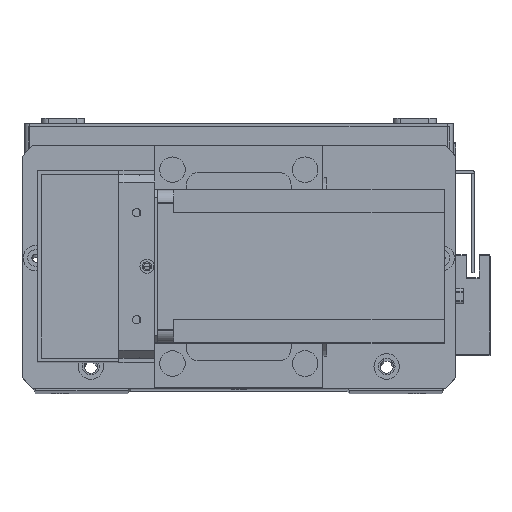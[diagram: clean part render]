
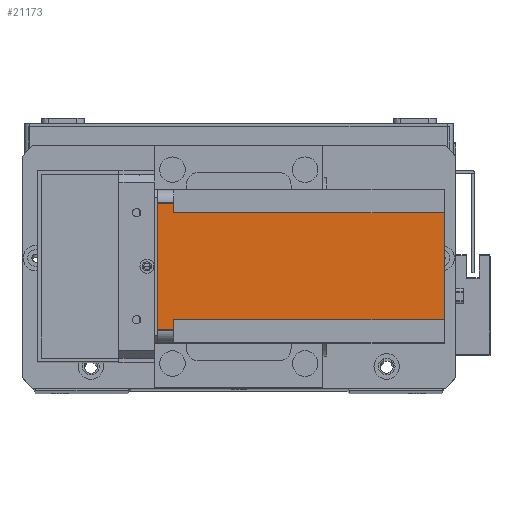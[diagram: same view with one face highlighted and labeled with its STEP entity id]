
A CAD part, top view. The second image highlights one B-rep face of the part: STEP entity #21173.
In plain terms, the highlighted planar face has unit normal (0, 0, 1) as drawn and (-1, 0, 0) by its records, which use the part's own axes.
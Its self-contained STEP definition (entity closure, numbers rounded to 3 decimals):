
#72 = LINE ( 'NONE', #29874, #24932 ) ;
#92 = CARTESIAN_POINT ( 'NONE',  ( 0., 51., -112.5 ) ) ;
#443 = ORIENTED_EDGE ( 'NONE', *, *, #10992, .T. ) ;
#1039 = DIRECTION ( 'NONE',  ( 0., -1., 0. ) ) ;
#1061 = FACE_OUTER_BOUND ( 'NONE', #11012, .T. ) ;
#1463 = CARTESIAN_POINT ( 'NONE',  ( 0., 0., -6.5 ) ) ;
#1934 = CARTESIAN_POINT ( 'NONE',  ( 0., 55., -6.5 ) ) ;
#2232 = ORIENTED_EDGE ( 'NONE', *, *, #4932, .T. ) ;
#2370 = CARTESIAN_POINT ( 'NONE',  ( 0., 5., -112.5 ) ) ;
#3046 = LINE ( 'NONE', #30654, #14325 ) ;
#3727 = DIRECTION ( 'NONE',  ( 0., 0., -1. ) ) ;
#4104 = DIRECTION ( 'NONE',  ( 0., 0., -1. ) ) ;
#4932 = EDGE_CURVE ( 'NONE', #8837, #8060, #9260, .T. ) ;
#5258 = EDGE_CURVE ( 'NONE', #18694, #5936, #17892, .T. ) ;
#5936 = VERTEX_POINT ( 'NONE', #26178 ) ;
#6302 = CARTESIAN_POINT ( 'NONE',  ( 0., 9., -6.5 ) ) ;
#6994 = CARTESIAN_POINT ( 'NONE',  ( 0., 0., -112.5 ) ) ;
#7308 = VERTEX_POINT ( 'NONE', #15524 ) ;
#7620 = CARTESIAN_POINT ( 'NONE',  ( 0., 51., -112.5 ) ) ;
#7834 = CARTESIAN_POINT ( 'NONE',  ( 0., 51., -6.5 ) ) ;
#7879 = VECTOR ( 'NONE', #22046, 1000. ) ;
#8060 = VERTEX_POINT ( 'NONE', #15330 ) ;
#8737 = ORIENTED_EDGE ( 'NONE', *, *, #24756, .F. ) ;
#8837 = VERTEX_POINT ( 'NONE', #15823 ) ;
#8859 = ORIENTED_EDGE ( 'NONE', *, *, #5258, .F. ) ;
#9260 = LINE ( 'NONE', #2370, #22070 ) ;
#9266 = VECTOR ( 'NONE', #27873, 1000. ) ;
#9796 = EDGE_CURVE ( 'NONE', #20112, #30673, #27051, .T. ) ;
#10992 = EDGE_CURVE ( 'NONE', #7308, #23516, #24505, .T. ) ;
#11012 = EDGE_LOOP ( 'NONE', ( #28892, #2232, #8737, #443, #19798, #20860, #13153, #8859 ) ) ;
#11246 = CARTESIAN_POINT ( 'NONE',  ( 0., 55., -112.5 ) ) ;
#11491 = VECTOR ( 'NONE', #3727, 1000. ) ;
#11738 = PLANE ( 'NONE',  #17146 ) ;
#12787 = DIRECTION ( 'NONE',  ( 0., 1., 0. ) ) ;
#13153 = ORIENTED_EDGE ( 'NONE', *, *, #23940, .T. ) ;
#13808 = DIRECTION ( 'NONE',  ( 0., -1., 0. ) ) ;
#14325 = VECTOR ( 'NONE', #13808, 1000. ) ;
#15330 = CARTESIAN_POINT ( 'NONE',  ( 0., 5., 0. ) ) ;
#15524 = CARTESIAN_POINT ( 'NONE',  ( 0., 55., 0. ) ) ;
#15650 = LINE ( 'NONE', #1463, #9266 ) ;
#15823 = CARTESIAN_POINT ( 'NONE',  ( 0., 5., -6.5 ) ) ;
#16670 = DIRECTION ( 'NONE',  ( 0., -1., 0. ) ) ;
#17146 = AXIS2_PLACEMENT_3D ( 'NONE', #6994, #31087, #16670 ) ;
#17892 = LINE ( 'NONE', #25275, #11491 ) ;
#18109 = VECTOR ( 'NONE', #4104, 1000. ) ;
#18694 = VERTEX_POINT ( 'NONE', #6302 ) ;
#19174 = DIRECTION ( 'NONE',  ( 0., 0., 1. ) ) ;
#19798 = ORIENTED_EDGE ( 'NONE', *, *, #30119, .F. ) ;
#20045 = LINE ( 'NONE', #27186, #23092 ) ;
#20112 = VERTEX_POINT ( 'NONE', #92 ) ;
#20860 = ORIENTED_EDGE ( 'NONE', *, *, #9796, .F. ) ;
#21173 = ADVANCED_FACE ( 'NONE', ( #1061 ), #11738, .T. ) ;
#22046 = DIRECTION ( 'NONE',  ( 0., 0., 1. ) ) ;
#22070 = VECTOR ( 'NONE', #19174, 1000. ) ;
#23092 = VECTOR ( 'NONE', #12787, 1000. ) ;
#23516 = VERTEX_POINT ( 'NONE', #1934 ) ;
#23940 = EDGE_CURVE ( 'NONE', #20112, #5936, #72, .T. ) ;
#24505 = LINE ( 'NONE', #11246, #18109 ) ;
#24756 = EDGE_CURVE ( 'NONE', #7308, #8060, #3046, .T. ) ;
#24932 = VECTOR ( 'NONE', #1039, 1000. ) ;
#25275 = CARTESIAN_POINT ( 'NONE',  ( 0., 9., -112.5 ) ) ;
#26178 = CARTESIAN_POINT ( 'NONE',  ( 0., 9., -112.5 ) ) ;
#27051 = LINE ( 'NONE', #7620, #7879 ) ;
#27186 = CARTESIAN_POINT ( 'NONE',  ( 0., 60., -6.5 ) ) ;
#27873 = DIRECTION ( 'NONE',  ( 0., 1., 0. ) ) ;
#28435 = EDGE_CURVE ( 'NONE', #8837, #18694, #15650, .T. ) ;
#28892 = ORIENTED_EDGE ( 'NONE', *, *, #28435, .F. ) ;
#29874 = CARTESIAN_POINT ( 'NONE',  ( 0., 0., -112.5 ) ) ;
#30119 = EDGE_CURVE ( 'NONE', #30673, #23516, #20045, .T. ) ;
#30654 = CARTESIAN_POINT ( 'NONE',  ( 0., 0., 0. ) ) ;
#30673 = VERTEX_POINT ( 'NONE', #7834 ) ;
#31087 = DIRECTION ( 'NONE',  ( -1., 0., 0. ) ) ;
